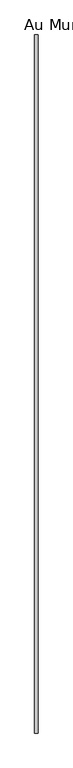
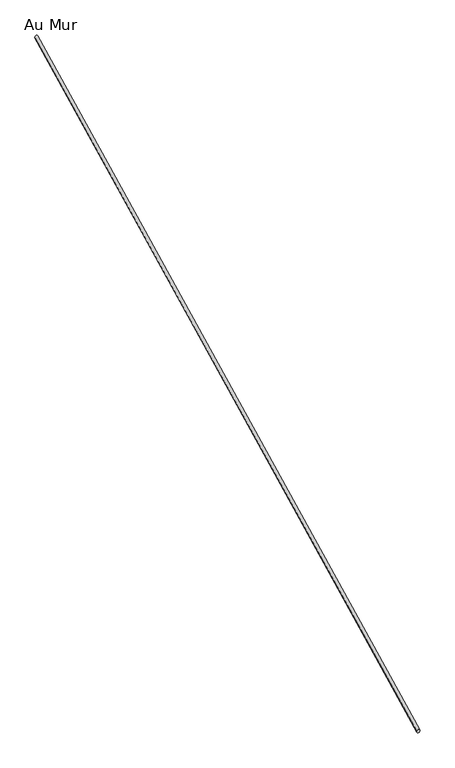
"""IFC4 building model written with IfcOpenShell, lengths in millimetres: railing geometry, Au Mur."""

from ifc_helpers import new_model, si_unit, frame, origin, place, context, project, spatial, ellipse_curve, source, transform, mapped, element, save
from ifc_brep_helpers import plane_surface, cylinder_surface, advanced_brep


def au_mur_01cebaf9(model_context):
    return source(origin(), model_context, "Body", "AdvancedBrep", [
        advanced_brep(
        [(-9173.5891683, -5435.5708354, 1937.9837172), (-9203.5891683, -5435.5708354, 1937.9837172), (-9173.5891683, 1004.4291646, 5167.0927549), (-9203.5891683, 1004.4291646, 5167.0927549)],
        [
            (0, 1, ellipse_curve(frame((-9188.5891683, -5435.5708354, 1937.9837172), z_axis=(0.0, -1.0, 0.0), x_axis=(0.0, 0.0, -1.0)), 16.780009, 15.0)),
            (1, 0, ellipse_curve(frame((-9188.5891683, -5435.5708354, 1937.9837172), z_axis=(0.0, -1.0, 0.0), x_axis=(0.0, 0.0, -1.0)), 16.780009, 15.0)),
            (2, 3, ellipse_curve(frame((-9188.5891683, 1004.4291646, 5167.0927549), z_axis=(0.0, 1.0, 0.0), x_axis=(0.0, 0.0, -1.0)), 16.780009, 15.0)),
            (3, 2, ellipse_curve(frame((-9188.5891683, 1004.4291646, 5167.0927549), z_axis=(0.0, 1.0, 0.0), x_axis=(0.0, 0.0, -1.0)), 16.780009, 15.0)),
            (0, 2),
            (3, 1),
        ],
        [
            plane_surface(frame((-9188.5891683, -5435.5708354, 1954.7637261), z_axis=(0.0, -1.0, 0.0), x_axis=(0.0, 0.0, 1.0))),
            plane_surface(frame((-9188.5891683, 1004.4291646, 5183.8727639), z_axis=(0.0, 1.0, 0.0), x_axis=(0.0, 0.0, 1.0))),
            cylinder_surface(frame((-9188.5891683, -5428.8474629, 1941.3549133), z_axis=(0.0, -0.8939208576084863, -0.44822483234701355), x_axis=(-1.0, 0.0, 0.0)), 15.0),
        ],
        [
            (0, [[1, 2]]),
            (1, [[3, 4]]),
            (2, [[-1, 5, -4, 6]]),
            (2, [[-2, -6, -3, -5]]),
        ],
    ),
    ])


if __name__ == "__main__":
    model = new_model("IFC4")
    model_context = context("Model", 3, world=origin())
    ifc_project = project(units=[si_unit("LENGTHUNIT", "METRE", prefix="MILLI")], contexts=[model_context])
    site = spatial("IfcSite", under=ifc_project)
    building = spatial("IfcBuilding", under=site)
    placement = place(None, origin())
    au_mur_shape = au_mur_01cebaf9(model_context)
    element("IfcRailing", 1, ObjectType="Au Mur", at=placement, inside=building, context=model_context, shape_type="MappedRepresentation", body=[
        mapped(au_mur_shape, transform((0.0, 0.0, 0.0), x_axis=(1.0, 0.0, 0.0), y_axis=(0.0, 1.0, 0.0), z_axis=(0.0, 0.0, 1.0))),
    ])
    save(model, "model.ifc")
